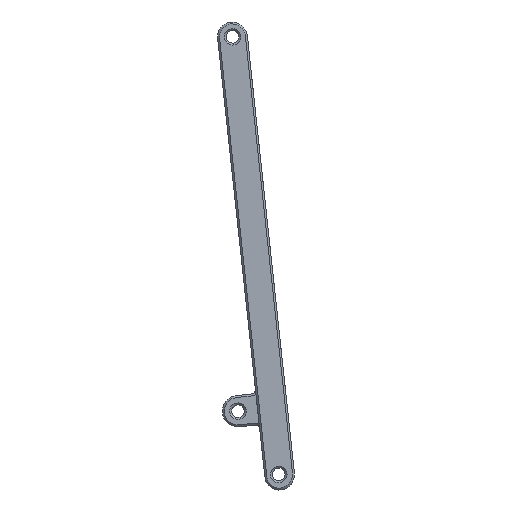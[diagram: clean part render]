
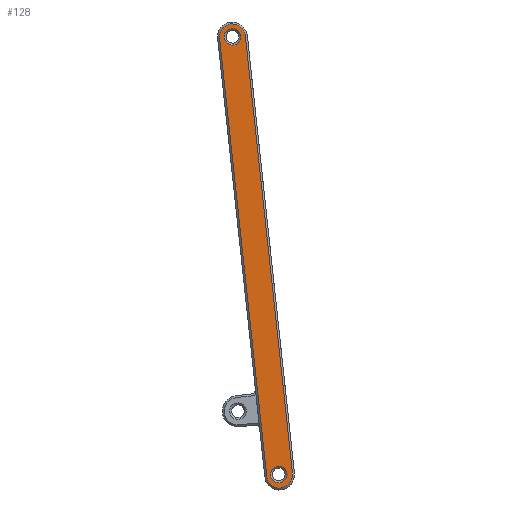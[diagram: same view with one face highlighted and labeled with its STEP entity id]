
A CAD part, left-side view. The second image highlights one B-rep face of the part: STEP entity #128.
In plain terms, the highlighted planar face has unit normal (-1, 0, 0).
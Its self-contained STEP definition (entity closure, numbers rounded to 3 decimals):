
#128=ADVANCED_FACE('',(#359,#360,#361),#362,.T.);
#359=FACE_BOUND('',#667,.T.);
#360=FACE_OUTER_BOUND('',#668,.T.);
#361=FACE_BOUND('',#669,.T.);
#362=PLANE('',#670);
#667=EDGE_LOOP('',(#1388,#1389));
#668=EDGE_LOOP('',(#1390,#1391,#1392,#1393,#1394,#1395,#1396,#1397,#1398,#1399));
#669=EDGE_LOOP('',(#1400,#1401));
#670=AXIS2_PLACEMENT_3D('',#1402,#1403,#1404);
#1388=ORIENTED_EDGE('',*,*,#2107,.F.);
#1389=ORIENTED_EDGE('',*,*,#2210,.F.);
#1390=ORIENTED_EDGE('',*,*,#2211,.F.);
#1391=ORIENTED_EDGE('',*,*,#2087,.F.);
#1392=ORIENTED_EDGE('',*,*,#2212,.F.);
#1393=ORIENTED_EDGE('',*,*,#2095,.F.);
#1394=ORIENTED_EDGE('',*,*,#2213,.F.);
#1395=ORIENTED_EDGE('',*,*,#2214,.F.);
#1396=ORIENTED_EDGE('',*,*,#2099,.F.);
#1397=ORIENTED_EDGE('',*,*,#2215,.F.);
#1398=ORIENTED_EDGE('',*,*,#2091,.F.);
#1399=ORIENTED_EDGE('',*,*,#2216,.F.);
#1400=ORIENTED_EDGE('',*,*,#2118,.F.);
#1401=ORIENTED_EDGE('',*,*,#2201,.F.);
#1402=CARTESIAN_POINT('',(-713.5,199.189,5.394));
#1403=DIRECTION('',(-1.0,0.0,0.0));
#1404=DIRECTION('',(0.0,0.107,0.994));
#2087=EDGE_CURVE('',#2539,#2542,#2543,.T.);
#2091=EDGE_CURVE('',#2547,#2549,#2550,.T.);
#2095=EDGE_CURVE('',#2554,#2557,#2558,.T.);
#2099=EDGE_CURVE('',#2561,#2563,#2564,.T.);
#2107=EDGE_CURVE('',#2576,#2574,#2578,.T.);
#2118=EDGE_CURVE('',#2595,#2593,#2597,.T.);
#2201=EDGE_CURVE('',#2593,#2595,#2728,.T.);
#2210=EDGE_CURVE('',#2574,#2576,#2739,.T.);
#2211=EDGE_CURVE('',#2542,#2740,#2741,.T.);
#2212=EDGE_CURVE('',#2557,#2539,#2742,.T.);
#2213=EDGE_CURVE('',#2743,#2554,#2744,.T.);
#2214=EDGE_CURVE('',#2563,#2743,#2745,.T.);
#2215=EDGE_CURVE('',#2549,#2561,#2746,.T.);
#2216=EDGE_CURVE('',#2740,#2547,#2747,.T.);
#2539=VERTEX_POINT('',#3163);
#2542=VERTEX_POINT('',#3167);
#2543=CIRCLE('',#3168,3.5);
#2547=VERTEX_POINT('',#3173);
#2549=VERTEX_POINT('',#3176);
#2550=CIRCLE('',#3177,3.5);
#2554=VERTEX_POINT('',#3184);
#2557=VERTEX_POINT('',#3188);
#2558=CIRCLE('',#3189,3.3);
#2561=VERTEX_POINT('',#3195);
#2563=VERTEX_POINT('',#3198);
#2564=CIRCLE('',#3199,3.3);
#2574=VERTEX_POINT('',#3212);
#2576=VERTEX_POINT('',#3215);
#2578=CIRCLE('',#3218,2.1);
#2593=VERTEX_POINT('',#3237);
#2595=VERTEX_POINT('',#3240);
#2597=CIRCLE('',#3243,2.1);
#2728=CIRCLE('',#3487,2.1);
#2739=CIRCLE('',#3500,2.1);
#2740=VERTEX_POINT('',#3501);
#2741=LINE('',#3502,#3503);
#2742=CIRCLE('',#3504,3.5);
#2743=VERTEX_POINT('',#3505);
#2744=CIRCLE('',#3506,3.3);
#2745=LINE('',#3507,#3508);
#2746=CIRCLE('',#3509,3.3);
#2747=CIRCLE('',#3510,3.5);
#3163=CARTESIAN_POINT('',(-713.5,200.508,3.686));
#3167=CARTESIAN_POINT('',(-713.5,199.258,1.363));
#3168=AXIS2_PLACEMENT_3D('',#3941,#3942,#3943);
#3173=CARTESIAN_POINT('',(-713.5,187.999,-112.529));
#3176=CARTESIAN_POINT('',(-713.5,190.277,-113.836));
#3177=AXIS2_PLACEMENT_3D('',#3949,#3950,#3951);
#3184=CARTESIAN_POINT('',(-713.5,205.157,3.246));
#3188=CARTESIAN_POINT('',(-713.5,203.012,4.478));
#3189=AXIS2_PLACEMENT_3D('',#3956,#3957,#3958);
#3195=CARTESIAN_POINT('',(-713.5,192.636,-113.088));
#3198=CARTESIAN_POINT('',(-713.5,193.813,-110.899));
#3199=AXIS2_PLACEMENT_3D('',#3963,#3964,#3965);
#3212=CARTESIAN_POINT('',(-713.5,189.37,-108.788));
#3215=CARTESIAN_POINT('',(-713.5,192.135,-111.949));
#3218=AXIS2_PLACEMENT_3D('',#3977,#3978,#3979);
#3237=CARTESIAN_POINT('',(-713.5,201.169,2.782));
#3240=CARTESIAN_POINT('',(-713.5,203.935,-0.379));
#3243=AXIS2_PLACEMENT_3D('',#3998,#3999,#4000);
#3487=AXIS2_PLACEMENT_3D('',#4141,#4142,#4143);
#3500=AXIS2_PLACEMENT_3D('',#4164,#4165,#4166);
#3501=CARTESIAN_POINT('',(-713.5,187.273,-109.994));
#3502=CARTESIAN_POINT('',(-713.5,199.686,5.34));
#3503=VECTOR('',#4167,1.);
#3504=AXIS2_PLACEMENT_3D('',#4168,#4169,#4170);
#3505=CARTESIAN_POINT('',(-713.5,205.842,0.856));
#3506=AXIS2_PLACEMENT_3D('',#4171,#4172,#4173);
#3507=CARTESIAN_POINT('',(-713.5,206.248,4.634));
#3508=VECTOR('',#4174,1.);
#3509=AXIS2_PLACEMENT_3D('',#4175,#4176,#4177);
#3510=AXIS2_PLACEMENT_3D('',#4178,#4179,#4180);
#3941=CARTESIAN_POINT('',(-713.5,202.738,0.989));
#3942=DIRECTION('',(1.0,0.0,0.0));
#3943=DIRECTION('',(0.0,-0.637,0.771));
#3949=CARTESIAN_POINT('',(-713.5,190.753,-110.368));
#3950=DIRECTION('',(1.0,0.0,0.0));
#3951=DIRECTION('',(0.0,-0.787,-0.617));
#3956=CARTESIAN_POINT('',(-713.5,202.561,1.209));
#3957=DIRECTION('',(1.0,0.0,-0.0));
#3958=DIRECTION('',(0.0,0.787,0.617));
#3963=CARTESIAN_POINT('',(-713.5,190.532,-110.546));
#3964=DIRECTION('',(1.0,0.0,0.0));
#3965=DIRECTION('',(0.0,0.637,-0.771));
#3977=CARTESIAN_POINT('',(-713.5,190.753,-110.368));
#3978=DIRECTION('',(-1.0,0.0,0.0));
#3979=DIRECTION('',(0.0,-0.658,0.753));
#3998=CARTESIAN_POINT('',(-713.5,202.552,1.201));
#3999=DIRECTION('',(-1.0,0.0,0.0));
#4000=DIRECTION('',(0.0,-0.658,0.753));
#4141=CARTESIAN_POINT('',(-713.5,202.552,1.201));
#4142=DIRECTION('',(-1.0,0.0,0.0));
#4143=DIRECTION('',(0.0,-0.658,0.753));
#4164=CARTESIAN_POINT('',(-713.5,190.753,-110.368));
#4165=DIRECTION('',(-1.0,0.0,0.0));
#4166=DIRECTION('',(0.0,-0.658,0.753));
#4167=DIRECTION('',(0.0,-0.107,-0.994));
#4168=CARTESIAN_POINT('',(-713.5,202.738,0.989));
#4169=DIRECTION('',(1.0,0.0,0.0));
#4170=DIRECTION('',(0.0,-0.637,0.771));
#4171=CARTESIAN_POINT('',(-713.5,202.561,1.209));
#4172=DIRECTION('',(1.0,0.0,-0.0));
#4173=DIRECTION('',(0.0,0.787,0.617));
#4174=DIRECTION('',(0.0,0.107,0.994));
#4175=CARTESIAN_POINT('',(-713.5,190.532,-110.546));
#4176=DIRECTION('',(1.0,0.0,0.0));
#4177=DIRECTION('',(0.0,0.637,-0.771));
#4178=CARTESIAN_POINT('',(-713.5,190.753,-110.368));
#4179=DIRECTION('',(1.0,0.0,0.0));
#4180=DIRECTION('',(0.0,-0.787,-0.617));
